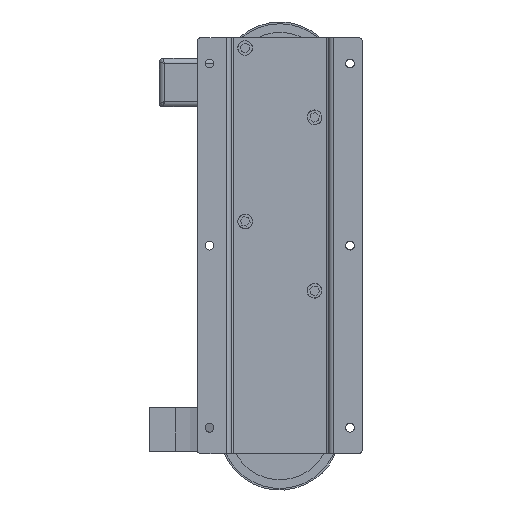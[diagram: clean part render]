
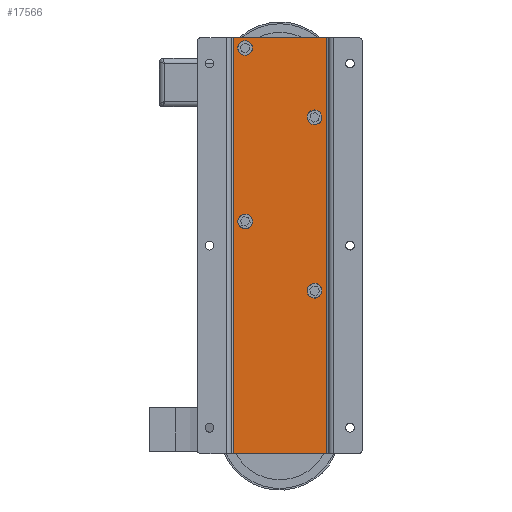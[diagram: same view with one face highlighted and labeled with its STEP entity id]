
A CAD part, left-side view. The second image highlights one B-rep face of the part: STEP entity #17566.
In plain terms, the highlighted planar face has unit normal (-1, 0, 0) as drawn and (0, 0, -1) by its records, which use the part's own axes.
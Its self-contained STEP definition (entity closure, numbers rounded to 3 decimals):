
#356 = DIRECTION ( 'NONE',  ( 0., 1., 0. ) ) ;
#972 = CARTESIAN_POINT ( 'NONE',  ( -74., -20., -2. ) ) ;
#1160 = DIRECTION ( 'NONE',  ( -1., 0., 0. ) ) ;
#1186 = VECTOR ( 'NONE', #28474, 1000. ) ;
#1364 = DIRECTION ( 'NONE',  ( 1., 0., 0. ) ) ;
#1416 = DIRECTION ( 'NONE',  ( 1., 0., 0. ) ) ;
#1686 = CARTESIAN_POINT ( 'NONE',  ( -74., -20., -2. ) ) ;
#2213 = VERTEX_POINT ( 'NONE', #23178 ) ;
#2584 = CARTESIAN_POINT ( 'NONE',  ( 26., -20., -2. ) ) ;
#2927 = CIRCLE ( 'NONE', #20198, 3.25 ) ;
#3239 = CARTESIAN_POINT ( 'NONE',  ( -120., -27., -2. ) ) ;
#4278 = DIRECTION ( 'NONE',  ( 0., 0., 1. ) ) ;
#4393 = VERTEX_POINT ( 'NONE', #7805 ) ;
#4778 = EDGE_LOOP ( 'NONE', ( #31148, #19260 ) ) ;
#4982 = DIRECTION ( 'NONE',  ( 1., 0., 0. ) ) ;
#4989 = VERTEX_POINT ( 'NONE', #5807 ) ;
#5796 = CARTESIAN_POINT ( 'NONE',  ( 120., 27., -2. ) ) ;
#5807 = CARTESIAN_POINT ( 'NONE',  ( -117.25, 20., -2. ) ) ;
#6682 = DIRECTION ( 'NONE',  ( 0., 0., 1. ) ) ;
#6939 = CARTESIAN_POINT ( 'NONE',  ( -14., 20., -2. ) ) ;
#7118 = AXIS2_PLACEMENT_3D ( 'NONE', #17365, #10973, #34634 ) ;
#7791 = CARTESIAN_POINT ( 'NONE',  ( 29.25, -20., -2. ) ) ;
#7805 = CARTESIAN_POINT ( 'NONE',  ( -70.75, -20., -2. ) ) ;
#8264 = EDGE_CURVE ( 'NONE', #21907, #13200, #26890, .T. ) ;
#8374 = CIRCLE ( 'NONE', #34390, 3.25 ) ;
#8412 = FACE_BOUND ( 'NONE', #23755, .T. ) ;
#8987 = DIRECTION ( 'NONE',  ( 1., 0., 0. ) ) ;
#9238 = CIRCLE ( 'NONE', #27759, 3.25 ) ;
#9546 = VERTEX_POINT ( 'NONE', #15634 ) ;
#9743 = EDGE_CURVE ( 'NONE', #4989, #2213, #15335, .T. ) ;
#10065 = CARTESIAN_POINT ( 'NONE',  ( 120., -27., -2. ) ) ;
#10196 = CARTESIAN_POINT ( 'NONE',  ( -120., 27., -2. ) ) ;
#10973 = DIRECTION ( 'NONE',  ( 0., 0., 1. ) ) ;
#12142 = EDGE_CURVE ( 'NONE', #17198, #4393, #9238, .T. ) ;
#12517 = DIRECTION ( 'NONE',  ( 1., 0., 0. ) ) ;
#12952 = EDGE_CURVE ( 'NONE', #4393, #17198, #23371, .T. ) ;
#13200 = VERTEX_POINT ( 'NONE', #5796 ) ;
#13329 = LINE ( 'NONE', #28451, #24499 ) ;
#13406 = VERTEX_POINT ( 'NONE', #10196 ) ;
#13499 = DIRECTION ( 'NONE',  ( 0., 0., 1. ) ) ;
#13967 = VERTEX_POINT ( 'NONE', #26044 ) ;
#14504 = EDGE_CURVE ( 'NONE', #30404, #33415, #2927, .T. ) ;
#14862 = CARTESIAN_POINT ( 'NONE',  ( -77.25, -20., -2. ) ) ;
#14971 = ORIENTED_EDGE ( 'NONE', *, *, #28982, .F. ) ;
#15044 = DIRECTION ( 'NONE',  ( 0., 0., 1. ) ) ;
#15335 = CIRCLE ( 'NONE', #22773, 3.25 ) ;
#15634 = CARTESIAN_POINT ( 'NONE',  ( -120., -27., -2. ) ) ;
#15735 = EDGE_CURVE ( 'NONE', #22335, #13967, #34542, .T. ) ;
#16203 = CARTESIAN_POINT ( 'NONE',  ( -10.75, 20., -2. ) ) ;
#16594 = DIRECTION ( 'NONE',  ( 1., 0., 0. ) ) ;
#16629 = EDGE_CURVE ( 'NONE', #9546, #21907, #22273, .T. ) ;
#17198 = VERTEX_POINT ( 'NONE', #14862 ) ;
#17365 = CARTESIAN_POINT ( 'NONE',  ( -14., 20., -2. ) ) ;
#17566 = ADVANCED_FACE ( 'NONE', ( #34961, #28946, #8412, #32053, #20593 ), #24268, .F. ) ;
#17926 = AXIS2_PLACEMENT_3D ( 'NONE', #23518, #18073, #8987 ) ;
#17950 = ORIENTED_EDGE ( 'NONE', *, *, #15735, .T. ) ;
#18073 = DIRECTION ( 'NONE',  ( 0., 0., 1. ) ) ;
#18616 = EDGE_CURVE ( 'NONE', #2213, #4989, #36478, .T. ) ;
#18778 = CARTESIAN_POINT ( 'NONE',  ( 22.75, -20., -2. ) ) ;
#19227 = CARTESIAN_POINT ( 'NONE',  ( 26., -20., -2. ) ) ;
#19260 = ORIENTED_EDGE ( 'NONE', *, *, #36001, .T. ) ;
#20198 = AXIS2_PLACEMENT_3D ( 'NONE', #2584, #26174, #32574 ) ;
#20593 = FACE_OUTER_BOUND ( 'NONE', #33474, .T. ) ;
#21409 = CARTESIAN_POINT ( 'NONE',  ( -114., 20., -2. ) ) ;
#21420 = EDGE_LOOP ( 'NONE', ( #32674, #37408 ) ) ;
#21907 = VERTEX_POINT ( 'NONE', #25162 ) ;
#22273 = LINE ( 'NONE', #10065, #1186 ) ;
#22335 = VERTEX_POINT ( 'NONE', #16203 ) ;
#22544 = EDGE_CURVE ( 'NONE', #13967, #22335, #33692, .T. ) ;
#22773 = AXIS2_PLACEMENT_3D ( 'NONE', #25317, #28017, #16594 ) ;
#23178 = CARTESIAN_POINT ( 'NONE',  ( -110.75, 20., -2. ) ) ;
#23371 = CIRCLE ( 'NONE', #30804, 3.25 ) ;
#23518 = CARTESIAN_POINT ( 'NONE',  ( 0., 0., -2. ) ) ;
#23755 = EDGE_LOOP ( 'NONE', ( #17950, #24900 ) ) ;
#23951 = ORIENTED_EDGE ( 'NONE', *, *, #18616, .T. ) ;
#24268 = PLANE ( 'NONE',  #17926 ) ;
#24499 = VECTOR ( 'NONE', #1160, 1000. ) ;
#24900 = ORIENTED_EDGE ( 'NONE', *, *, #22544, .T. ) ;
#25162 = CARTESIAN_POINT ( 'NONE',  ( 120., -27., -2. ) ) ;
#25206 = VECTOR ( 'NONE', #356, 1000. ) ;
#25317 = CARTESIAN_POINT ( 'NONE',  ( -114., 20., -2. ) ) ;
#26044 = CARTESIAN_POINT ( 'NONE',  ( -17.25, 20., -2. ) ) ;
#26174 = DIRECTION ( 'NONE',  ( 0., 0., 1. ) ) ;
#26890 = LINE ( 'NONE', #36582, #25206 ) ;
#27430 = ORIENTED_EDGE ( 'NONE', *, *, #16629, .F. ) ;
#27634 = DIRECTION ( 'NONE',  ( 1., 0., 0. ) ) ;
#27759 = AXIS2_PLACEMENT_3D ( 'NONE', #1686, #13499, #4982 ) ;
#27986 = ORIENTED_EDGE ( 'NONE', *, *, #34206, .F. ) ;
#28017 = DIRECTION ( 'NONE',  ( 0., 0., 1. ) ) ;
#28451 = CARTESIAN_POINT ( 'NONE',  ( 120., 27., -2. ) ) ;
#28474 = DIRECTION ( 'NONE',  ( 1., 0., 0. ) ) ;
#28667 = VECTOR ( 'NONE', #35783, 1000. ) ;
#28946 = FACE_BOUND ( 'NONE', #21420, .T. ) ;
#28982 = EDGE_CURVE ( 'NONE', #13200, #13406, #13329, .T. ) ;
#29796 = EDGE_LOOP ( 'NONE', ( #23951, #37852 ) ) ;
#30404 = VERTEX_POINT ( 'NONE', #7791 ) ;
#30539 = DIRECTION ( 'NONE',  ( 0., 0., 1. ) ) ;
#30637 = ORIENTED_EDGE ( 'NONE', *, *, #8264, .F. ) ;
#30804 = AXIS2_PLACEMENT_3D ( 'NONE', #972, #4278, #1364 ) ;
#31148 = ORIENTED_EDGE ( 'NONE', *, *, #14504, .T. ) ;
#32053 = FACE_BOUND ( 'NONE', #4778, .T. ) ;
#32574 = DIRECTION ( 'NONE',  ( 1., 0., 0. ) ) ;
#32674 = ORIENTED_EDGE ( 'NONE', *, *, #12952, .T. ) ;
#33046 = LINE ( 'NONE', #3239, #28667 ) ;
#33415 = VERTEX_POINT ( 'NONE', #18778 ) ;
#33474 = EDGE_LOOP ( 'NONE', ( #27986, #14971, #30637, #27430 ) ) ;
#33692 = CIRCLE ( 'NONE', #7118, 3.25 ) ;
#34206 = EDGE_CURVE ( 'NONE', #13406, #9546, #33046, .T. ) ;
#34390 = AXIS2_PLACEMENT_3D ( 'NONE', #19227, #6682, #1416 ) ;
#34542 = CIRCLE ( 'NONE', #37647, 3.25 ) ;
#34634 = DIRECTION ( 'NONE',  ( 1., 0., 0. ) ) ;
#34961 = FACE_BOUND ( 'NONE', #29796, .T. ) ;
#35233 = AXIS2_PLACEMENT_3D ( 'NONE', #21409, #15044, #12517 ) ;
#35783 = DIRECTION ( 'NONE',  ( 0., -1., 0. ) ) ;
#36001 = EDGE_CURVE ( 'NONE', #33415, #30404, #8374, .T. ) ;
#36478 = CIRCLE ( 'NONE', #35233, 3.25 ) ;
#36582 = CARTESIAN_POINT ( 'NONE',  ( 120., -27., -2. ) ) ;
#37408 = ORIENTED_EDGE ( 'NONE', *, *, #12142, .T. ) ;
#37647 = AXIS2_PLACEMENT_3D ( 'NONE', #6939, #30539, #27634 ) ;
#37852 = ORIENTED_EDGE ( 'NONE', *, *, #9743, .T. ) ;
